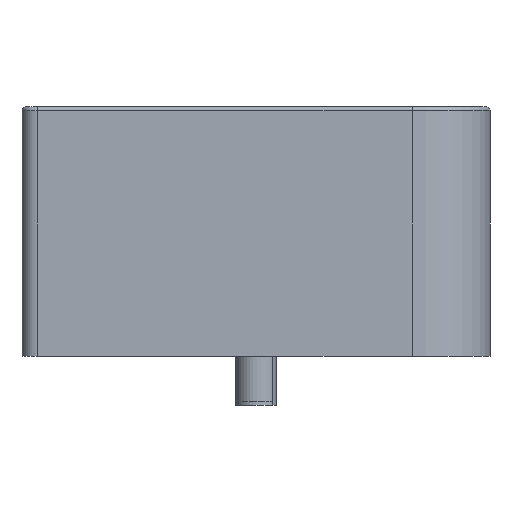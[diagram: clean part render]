
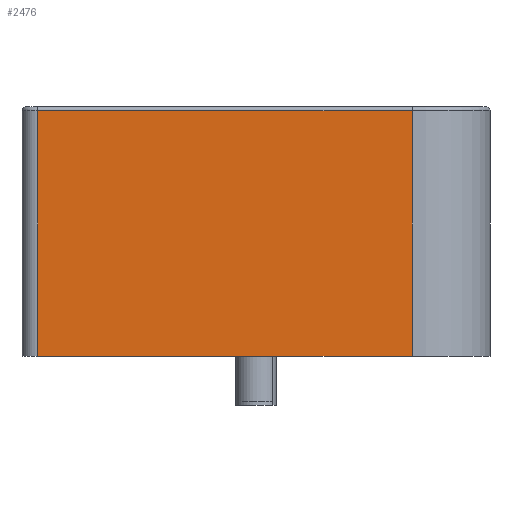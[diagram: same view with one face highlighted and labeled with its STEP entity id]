
A CAD part, left-side view. The second image highlights one B-rep face of the part: STEP entity #2476.
In plain terms, the highlighted planar face has unit normal (-1, 0, 0).
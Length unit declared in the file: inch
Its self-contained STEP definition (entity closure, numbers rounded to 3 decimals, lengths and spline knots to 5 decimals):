
#200 = VECTOR ( 'NONE', #6171, 39.37008 ) ;
#344 = EDGE_LOOP ( 'NONE', ( #1329, #3225, #2507, #2015 ) ) ;
#1284 = CARTESIAN_POINT ( 'NONE',  ( -0.75, -0.0625, -1. ) ) ;
#1329 = ORIENTED_EDGE ( 'NONE', *, *, #1729, .T. ) ;
#1387 = EDGE_CURVE ( 'NONE', #7489, #2429, #6579, .T. ) ;
#1544 = EDGE_CURVE ( 'NONE', #4139, #7489, #3279, .T. ) ;
#1650 = VECTOR ( 'NONE', #7253, 39.37008 ) ;
#1729 = EDGE_CURVE ( 'NONE', #2049, #4139, #2112, .T. ) ;
#2015 = ORIENTED_EDGE ( 'NONE', *, *, #2766, .T. ) ;
#2049 = VERTEX_POINT ( 'NONE', #6077 ) ;
#2112 = LINE ( 'NONE', #2113, #4908 ) ;
#2113 = CARTESIAN_POINT ( 'NONE',  ( -0.75, -1.563, -1. ) ) ;
#2429 = VERTEX_POINT ( 'NONE', #5366 ) ;
#2476 = ADVANCED_FACE ( 'NONE', ( #5848 ), #5388, .T. ) ;
#2507 = ORIENTED_EDGE ( 'NONE', *, *, #1387, .T. ) ;
#2766 = EDGE_CURVE ( 'NONE', #2429, #2049, #7682, .T. ) ;
#3033 = CARTESIAN_POINT ( 'NONE',  ( -0.75, -0.0625, -0.015 ) ) ;
#3225 = ORIENTED_EDGE ( 'NONE', *, *, #1544, .T. ) ;
#3279 = LINE ( 'NONE', #3033, #1650 ) ;
#4132 = DIRECTION ( 'NONE',  ( 0., 0., 1. ) ) ;
#4139 = VERTEX_POINT ( 'NONE', #4697 ) ;
#4378 = CARTESIAN_POINT ( 'NONE',  ( -0.75, -0.0625, -0.015 ) ) ;
#4697 = CARTESIAN_POINT ( 'NONE',  ( -0.75, -1.563, -0.015 ) ) ;
#4724 = CARTESIAN_POINT ( 'NONE',  ( -0.75, -1.875, -1. ) ) ;
#4908 = VECTOR ( 'NONE', #5718, 39.37008 ) ;
#5366 = CARTESIAN_POINT ( 'NONE',  ( -0.75, -0.0625, -1. ) ) ;
#5388 = PLANE ( 'NONE',  #5544 ) ;
#5544 = AXIS2_PLACEMENT_3D ( 'NONE', #5903, #5946, #4132 ) ;
#5718 = DIRECTION ( 'NONE',  ( 0., 0., 1. ) ) ;
#5848 = FACE_OUTER_BOUND ( 'NONE', #344, .T. ) ;
#5903 = CARTESIAN_POINT ( 'NONE',  ( -0.75, -1.875, -1. ) ) ;
#5946 = DIRECTION ( 'NONE',  ( -1., 0., 0. ) ) ;
#6007 = VECTOR ( 'NONE', #7648, 39.37008 ) ;
#6077 = CARTESIAN_POINT ( 'NONE',  ( -0.75, -1.563, -1. ) ) ;
#6171 = DIRECTION ( 'NONE',  ( 0., 0., -1. ) ) ;
#6579 = LINE ( 'NONE', #1284, #200 ) ;
#7253 = DIRECTION ( 'NONE',  ( 0., 1., 0. ) ) ;
#7489 = VERTEX_POINT ( 'NONE', #4378 ) ;
#7648 = DIRECTION ( 'NONE',  ( 0., -1., 0. ) ) ;
#7682 = LINE ( 'NONE', #4724, #6007 ) ;
